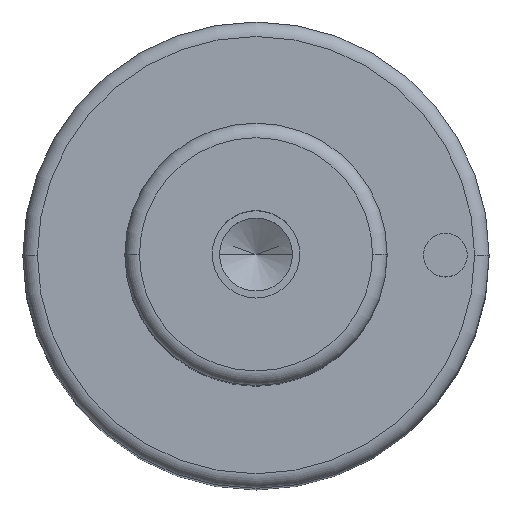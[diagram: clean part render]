
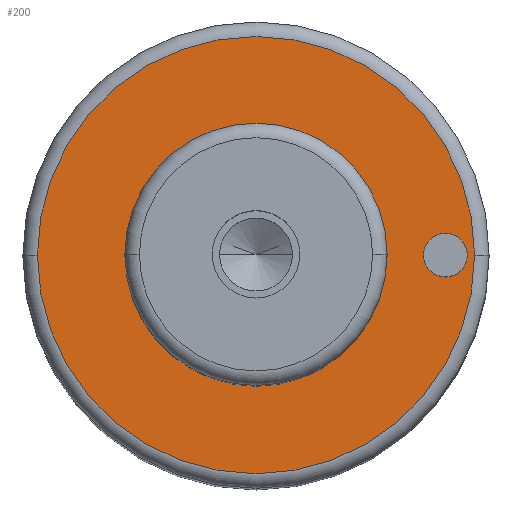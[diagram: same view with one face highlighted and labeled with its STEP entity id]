
A CAD part, top view. The second image highlights one B-rep face of the part: STEP entity #200.
In plain terms, the highlighted planar face has unit normal (0, 0, 1).
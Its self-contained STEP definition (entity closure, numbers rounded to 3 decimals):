
#99=PLANE('',#596);
#107=FACE_BOUND('',#265,.T.);
#108=FACE_BOUND('',#266,.T.);
#109=FACE_BOUND('',#267,.T.);
#200=ADVANCED_FACE('',(#107,#108,#109),#99,.T.);
#265=EDGE_LOOP('',(#359,#360));
#266=EDGE_LOOP('',(#361,#362));
#267=EDGE_LOOP('',(#363,#364));
#359=ORIENTED_EDGE('',*,*,#460,.F.);
#360=ORIENTED_EDGE('',*,*,#461,.F.);
#361=ORIENTED_EDGE('',*,*,#485,.F.);
#362=ORIENTED_EDGE('',*,*,#486,.F.);
#363=ORIENTED_EDGE('',*,*,#456,.T.);
#364=ORIENTED_EDGE('',*,*,#454,.T.);
#411=VERTEX_POINT('',#808);
#412=VERTEX_POINT('',#810);
#413=VERTEX_POINT('',#816);
#416=VERTEX_POINT('',#821);
#430=VERTEX_POINT('',#875);
#431=VERTEX_POINT('',#876);
#454=EDGE_CURVE('',#412,#411,#513,.T.);
#456=EDGE_CURVE('',#411,#412,#514,.T.);
#460=EDGE_CURVE('',#416,#413,#518,.T.);
#461=EDGE_CURVE('',#413,#416,#519,.T.);
#485=EDGE_CURVE('',#430,#431,#533,.T.);
#486=EDGE_CURVE('',#431,#430,#534,.T.);
#513=CIRCLE('',#558,9.);
#514=CIRCLE('',#560,9.);
#518=CIRCLE('',#565,15.);
#519=CIRCLE('',#567,15.);
#533=CIRCLE('',#594,1.5);
#534=CIRCLE('',#595,1.5);
#558=AXIS2_PLACEMENT_3D('',#809,#647,#648);
#560=AXIS2_PLACEMENT_3D('',#813,#652,#653);
#565=AXIS2_PLACEMENT_3D('',#822,#662,#663);
#567=AXIS2_PLACEMENT_3D('',#824,#666,#667);
#594=AXIS2_PLACEMENT_3D('',#874,#730,#731);
#595=AXIS2_PLACEMENT_3D('',#877,#732,#733);
#596=AXIS2_PLACEMENT_3D('',#878,#734,#735);
#647=DIRECTION('',(0.,0.,-1.));
#648=DIRECTION('',(0.,1.,0.));
#652=DIRECTION('',(0.,0.,-1.));
#653=DIRECTION('',(0.,-1.,0.));
#662=DIRECTION('',(0.,0.,-1.));
#663=DIRECTION('',(0.,1.,0.));
#666=DIRECTION('',(0.,0.,-1.));
#667=DIRECTION('',(0.,-1.,0.));
#730=DIRECTION('',(0.,0.,1.));
#731=DIRECTION('',(0.,1.,0.));
#732=DIRECTION('',(0.,0.,1.));
#733=DIRECTION('',(0.,-1.,0.));
#734=DIRECTION('',(0.,0.,1.));
#735=DIRECTION('',(0.,-1.,0.));
#808=CARTESIAN_POINT('',(-9.,0.,67.));
#809=CARTESIAN_POINT('',(0.,0.,67.));
#810=CARTESIAN_POINT('',(9.,0.,67.));
#813=CARTESIAN_POINT('',(0.,0.,67.));
#816=CARTESIAN_POINT('',(-15.,0.,67.));
#821=CARTESIAN_POINT('',(15.,0.,67.));
#822=CARTESIAN_POINT('',(0.,0.,67.));
#824=CARTESIAN_POINT('',(0.,0.,67.));
#874=CARTESIAN_POINT('',(13.,0.,67.));
#875=CARTESIAN_POINT('',(11.5,0.,67.));
#876=CARTESIAN_POINT('',(14.5,0.,67.));
#877=CARTESIAN_POINT('',(13.,0.,67.));
#878=CARTESIAN_POINT('',(0.,0.,67.));
